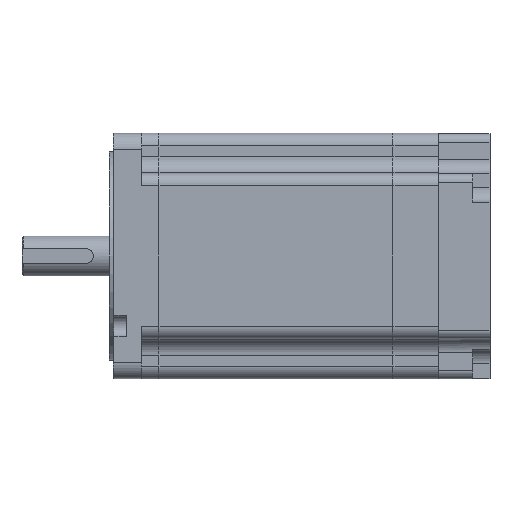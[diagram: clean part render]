
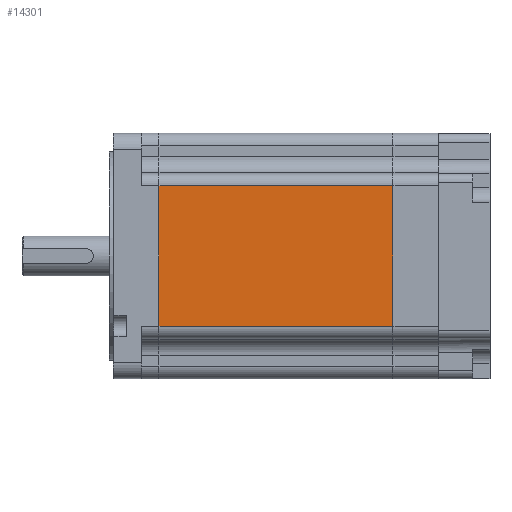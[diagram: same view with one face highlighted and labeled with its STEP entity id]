
A CAD part, left-side view. The second image highlights one B-rep face of the part: STEP entity #14301.
In plain terms, the highlighted planar face has unit normal (-1, 0, 0).
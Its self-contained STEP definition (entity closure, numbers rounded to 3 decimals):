
#144 = VERTEX_POINT ( 'NONE', #580 ) ;
#423 = PLANE ( 'NONE',  #2966 ) ;
#580 = CARTESIAN_POINT ( 'NONE',  ( -43., -6.008, 24.65 ) ) ;
#987 = LINE ( 'NONE', #7036, #4861 ) ;
#1087 = DIRECTION ( 'NONE',  ( 0., 0., -1. ) ) ;
#1995 = VECTOR ( 'NONE', #6851, 1000. ) ;
#2231 = LINE ( 'NONE', #6811, #7220 ) ;
#2966 = AXIS2_PLACEMENT_3D ( 'NONE', #7424, #4993, #8496 ) ;
#3249 = CARTESIAN_POINT ( 'NONE',  ( -43., -6.008, -24.65 ) ) ;
#3936 = EDGE_CURVE ( 'NONE', #14531, #7759, #987, .T. ) ;
#4352 = EDGE_CURVE ( 'NONE', #11941, #144, #2231, .T. ) ;
#4861 = VECTOR ( 'NONE', #11706, 1000. ) ;
#4993 = DIRECTION ( 'NONE',  ( 1., 0., 0. ) ) ;
#5573 = LINE ( 'NONE', #10178, #1995 ) ;
#6811 = CARTESIAN_POINT ( 'NONE',  ( -43., -104., 24.65 ) ) ;
#6851 = DIRECTION ( 'NONE',  ( 0., 0., 1. ) ) ;
#6918 = VECTOR ( 'NONE', #1087, 1000. ) ;
#7036 = CARTESIAN_POINT ( 'NONE',  ( -43., -104., -24.65 ) ) ;
#7098 = CARTESIAN_POINT ( 'NONE',  ( -43., -87.992, -24.65 ) ) ;
#7220 = VECTOR ( 'NONE', #10347, 1000. ) ;
#7424 = CARTESIAN_POINT ( 'NONE',  ( -43., 10., 37.3 ) ) ;
#7531 = ORIENTED_EDGE ( 'NONE', *, *, #13690, .F. ) ;
#7759 = VERTEX_POINT ( 'NONE', #3249 ) ;
#8275 = ORIENTED_EDGE ( 'NONE', *, *, #3936, .F. ) ;
#8358 = ORIENTED_EDGE ( 'NONE', *, *, #8959, .F. ) ;
#8496 = DIRECTION ( 'NONE',  ( 0., 0., -1. ) ) ;
#8959 = EDGE_CURVE ( 'NONE', #11941, #14531, #12548, .T. ) ;
#10178 = CARTESIAN_POINT ( 'NONE',  ( -43., -6.008, 37.3 ) ) ;
#10347 = DIRECTION ( 'NONE',  ( 0., 1., 0. ) ) ;
#10657 = CARTESIAN_POINT ( 'NONE',  ( -43., -87.992, 24.65 ) ) ;
#11398 = CARTESIAN_POINT ( 'NONE',  ( -43., -87.992, 37.3 ) ) ;
#11706 = DIRECTION ( 'NONE',  ( 0., 1., 0. ) ) ;
#11941 = VERTEX_POINT ( 'NONE', #10657 ) ;
#12548 = LINE ( 'NONE', #11398, #6918 ) ;
#13146 = FACE_OUTER_BOUND ( 'NONE', #13312, .T. ) ;
#13286 = ORIENTED_EDGE ( 'NONE', *, *, #4352, .T. ) ;
#13312 = EDGE_LOOP ( 'NONE', ( #8358, #13286, #7531, #8275 ) ) ;
#13690 = EDGE_CURVE ( 'NONE', #7759, #144, #5573, .T. ) ;
#14301 = ADVANCED_FACE ( 'NONE', ( #13146 ), #423, .F. ) ;
#14531 = VERTEX_POINT ( 'NONE', #7098 ) ;
